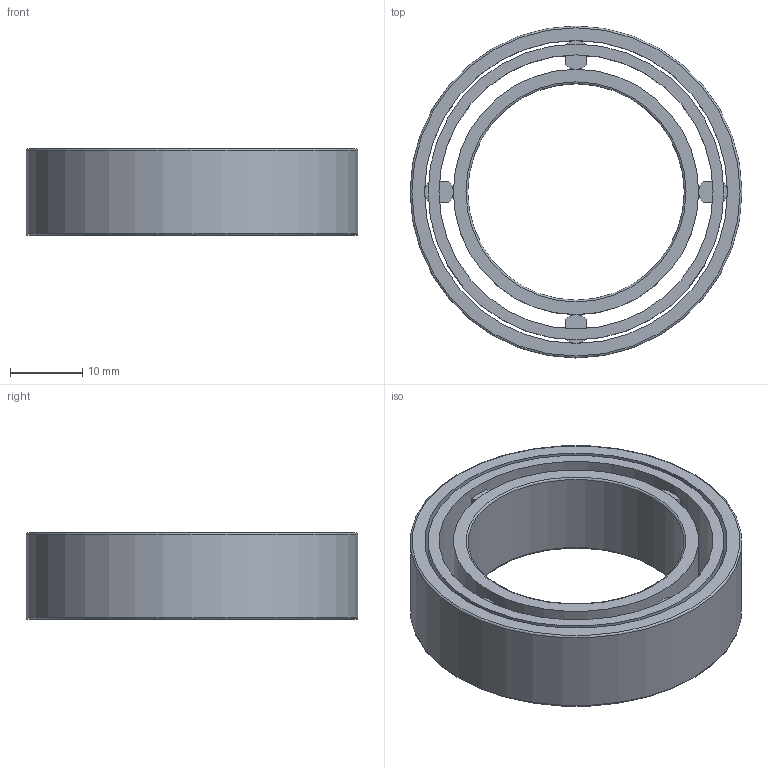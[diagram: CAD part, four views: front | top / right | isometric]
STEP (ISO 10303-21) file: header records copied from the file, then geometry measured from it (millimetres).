
FILE_DESCRIPTION(/* description */ (''),/* implementation_level */ '2;1');
FILE_NAME(/* name */ '300600 FR 442 Z.stp',/* time_stamp */ '2016-11-03T16:05:43+01:00',/* author */ (''),/* organization */ (''),/* preprocessor_version */ 'ST-DEVELOPER v15',/* originating_system */ 'SIEMENS PLM Software NX 8.5',/* authorisation */ '');
FILE_SCHEMA (('CONFIG_CONTROL_DESIGN'));
Length unit declared in the file: millimetre
Products named in the file (2): ATE0000080_01; ATE0000084_01
Assembly tree (1 placements, depth 2):
  ATE0000084_01
    ATE0000080_01
Bounding box: 46 x 46 x 12 mm (x, y, z)
Volume: 7596.9 mm3; surface area: 10290.5 mm2
Topology: 3 solids, 3 shells, 60 faces, 134 edges, 88 vertices
Faces by surface type: plane 40, cylinder 16, torus 4
Full cylindrical faces by diameter (mm): 30 x1, 34 x1, 38 x1, 40 x1, 41 x2, 42 x1, 46 x1
Entity records: 1777 total; most frequent: DIRECTION 292, CARTESIAN_POINT 262, ORIENTED_EDGE 232, EDGE_CURVE 116, AXIS2_PLACEMENT_3D 114, EDGE_LOOP 88, VERTEX_POINT 84, LINE 64
